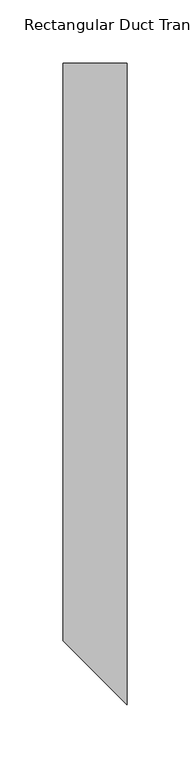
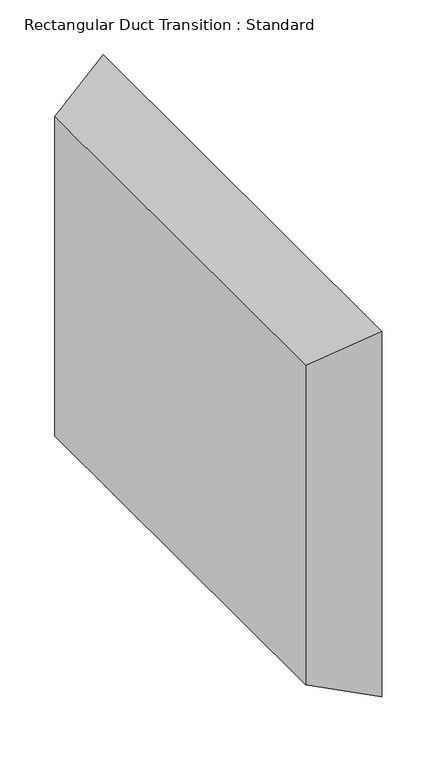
"""IFC4 building model written with IfcOpenShell, lengths in millimetres: duct fitting geometry, Rectangular Duct Transition : Standard."""

from ifc_helpers import new_model, si_unit, origin, place, context, project, spatial, faceted_brep, source, transform, mapped, element, save


def rectangular_duct_transition_standard_d7059f15(model_context):
    return source(origin(), model_context, "Body", "Brep", [
        faceted_brep([(50.8, -279.4, 228.6), (50.8, -279.4, -177.8), (50.8, 228.6, -177.8), (50.8, 228.6, 228.6), (0.0, -228.6, 177.8), (0.0, 228.6, 177.8), (0.0, 228.6, -177.8), (0.0, -228.6, -177.8)], [[[0, 1, 2, 3]], [[4, 5, 6, 7]], [[4, 7, 1, 0]], [[7, 6, 2, 1]], [[6, 5, 3, 2]], [[5, 4, 0, 3]]]),
        faceted_brep([(50.8, -279.4, 228.6), (50.8, -279.4, -177.8), (50.8, 228.6, -177.8), (50.8, 228.6, 228.6), (0.0, -228.6, 177.8), (0.0, 228.6, 177.8), (0.0, 228.6, -177.8), (0.0, -228.6, -177.8)], [[[0, 1, 2, 3]], [[4, 5, 6, 7]], [[4, 7, 1, 0]], [[7, 6, 2, 1]], [[6, 5, 3, 2]], [[5, 4, 0, 3]]]),
        faceted_brep([(50.8, -279.4, 228.6), (50.8, -279.4, -177.8), (50.8, 228.6, -177.8), (50.8, 228.6, 228.6), (0.0, -228.6, 177.8), (0.0, 228.6, 177.8), (0.0, 228.6, -177.8), (0.0, -228.6, -177.8)], [[[0, 1, 2, 3]], [[4, 5, 6, 7]], [[4, 7, 1, 0]], [[7, 6, 2, 1]], [[6, 5, 3, 2]], [[5, 4, 0, 3]]]),
    ])


if __name__ == "__main__":
    model = new_model("IFC4")
    model_context = context("Model", 3, world=origin())
    ifc_project = project(units=[si_unit("LENGTHUNIT", "METRE", prefix="MILLI")], contexts=[model_context])
    site = spatial("IfcSite", under=ifc_project)
    building = spatial("IfcBuilding", under=site)
    placement = place(None, origin())
    rectangular_duct_transition_standard_shape = rectangular_duct_transition_standard_d7059f15(model_context)
    element("IfcDuctFitting", 1, ObjectType="Rectangular Duct Transition : Standard", at=placement, inside=building, context=model_context, shape_type="MappedRepresentation", body=[
        mapped(rectangular_duct_transition_standard_shape, transform((0.0, 0.0, 0.0), x_axis=(1.0, 0.0, 0.0), y_axis=(0.0, 1.0, 0.0), z_axis=(0.0, 0.0, 1.0))),
    ])
    save(model, "model.ifc")
